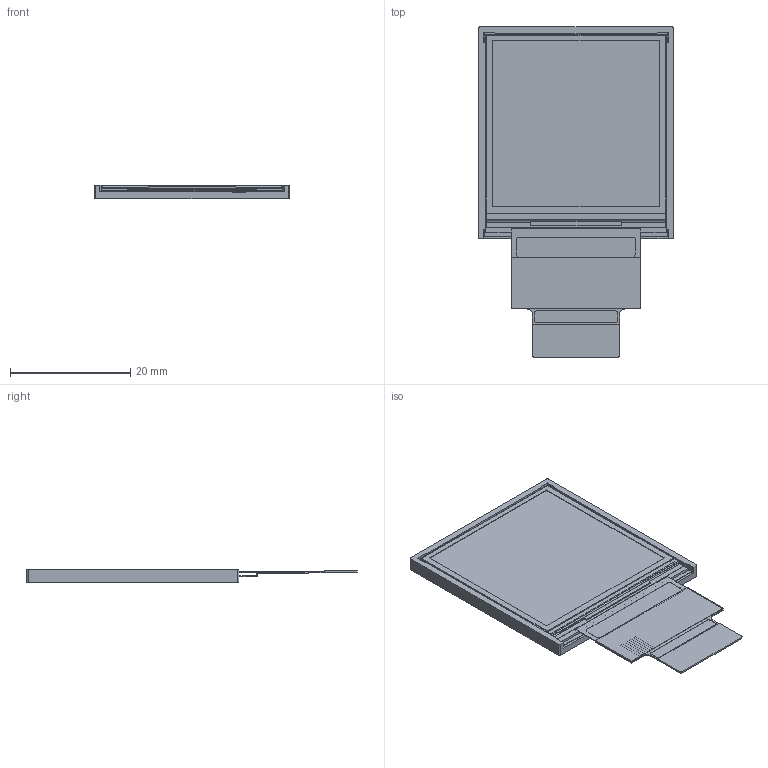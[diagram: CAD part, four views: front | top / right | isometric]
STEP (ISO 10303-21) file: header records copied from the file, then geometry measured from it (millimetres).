
FILE_DESCRIPTION (( 'STEP AP203' ), '1' );
FILE_NAME ('LCM-t154p55_V09_02.STEP', '2025-04-30T20:07:43', ( '' ), ( '' ), 'SwSTEP 2.0', 'SolidWorks 2019', '' );
FILE_SCHEMA (( 'CONFIG_CONTROL_DESIGN' ));
Length unit declared in the file: millimetre
Products named in the file (1): LCM-t154p55_V09_02
Bounding box: 32.52 x 55.02 x 2.25 mm (x, y, z)
Volume: 2431 mm3; surface area: 6474.9 mm2
Topology: 3 solids, 3 shells, 292 faces, 803 edges, 534 vertices
Faces by surface type: plane 260, cylinder 32
Entity records: 9255 total; most frequent: CARTESIAN_POINT 1700, ORIENTED_EDGE 1606, DIRECTION 1430, EDGE_CURVE 803, VECTOR 722, LINE 722, VERTEX_POINT 534, AXIS2_PLACEMENT_3D 354
